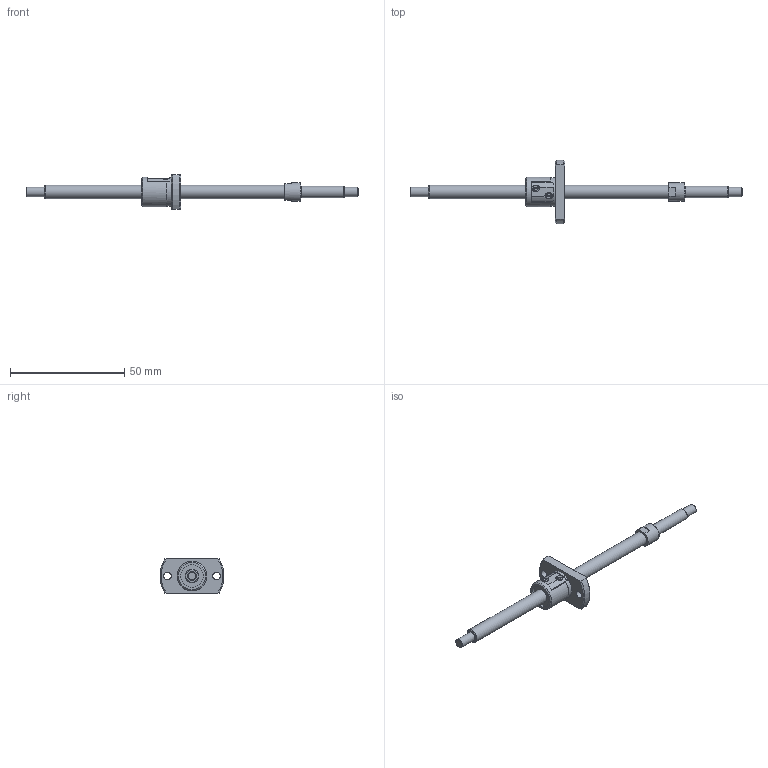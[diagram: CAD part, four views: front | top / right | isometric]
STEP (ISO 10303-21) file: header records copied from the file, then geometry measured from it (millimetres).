
FILE_DESCRIPTION(/* description */ ('STEP AP214'),/* implementation_level */ '2;1');
FILE_NAME(/* name */ 'SG0601-102R145C5C0X(42.5)',/* time_stamp */ '2026-07-20T20:12:56+02:00',/* author */ ('License CC BY-ND 4.0'),/* organization */ ('CADENAS'),/* preprocessor_version */ 'ST-DEVELOPER v20',/* originating_system */ 'PARTsolutions',/* authorisation */ ' ');
FILE_SCHEMA (('AUTOMOTIVE_DESIGN {1 0 10303 214 3 1 1}'));
Length unit declared in the file: millimetre
Products named in the file (3): SG0601-102R145C5C0X(42.5); SG0601-102R145C5C_shaft; SG0601 C5_nut
Assembly tree (2 placements, depth 2):
  SG0601-102R145C5C0X(42.5)
    SG0601-102R145C5C_shaft
    SG0601 C5_nut
Bounding box: 145 x 27.91 x 15 mm (x, y, z)
Volume: 6456 mm3; surface area: 4703.9 mm2
Topology: 2 solids, 2 shells, 74 faces, 179 edges, 118 vertices
Faces by surface type: plane 35, cylinder 24, cone 14, torus 1
Full cylindrical faces by diameter (mm): 3.4 x2, 4 x2, 5 x1, 6 x2, 8 x1, 10 x2, 12.6 x1, 13 x1
Entity records: 2087 total; most frequent: CARTESIAN_POINT 391, DIRECTION 352, ORIENTED_EDGE 292, AXIS2_PLACEMENT_3D 147, EDGE_CURVE 146, EDGE_LOOP 112, FACE_BOUND 112, VERTEX_POINT 108
